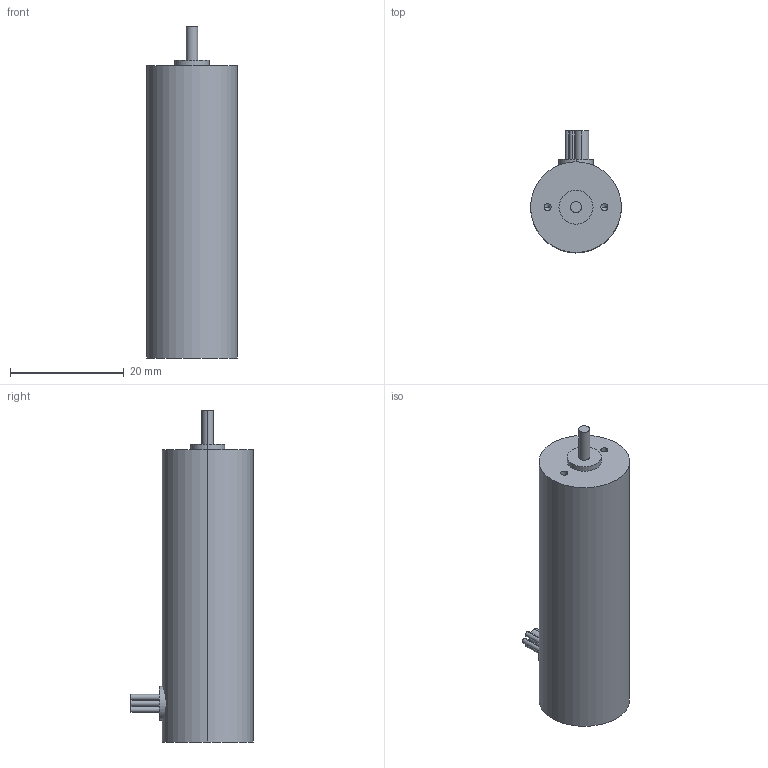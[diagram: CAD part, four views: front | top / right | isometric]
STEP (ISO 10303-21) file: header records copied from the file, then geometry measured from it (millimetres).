
FILE_DESCRIPTION (( 'STEP AP214' ), '1' );
FILE_NAME ('BD-1651.STEP', '2024-10-25T00:32:57', ( '' ), ( '' ), 'SwSTEP 2.0', 'SolidWorks 2024', '' );
FILE_SCHEMA (( 'AUTOMOTIVE_DESIGN' ));
Length unit declared in the file: millimetre
Products named in the file (1): BD-1651
Bounding box: 16 x 21.5 x 58.5 mm (x, y, z)
Volume: 10496.4 mm3; surface area: 3274.2 mm2
Topology: 2 solids, 2 shells, 34 faces, 68 edges, 42 vertices
Faces by surface type: cylinder 20, plane 10, cone 4
Entity records: 904 total; most frequent: DIRECTION 174, CARTESIAN_POINT 141, ORIENTED_EDGE 128, AXIS2_PLACEMENT_3D 75, EDGE_CURVE 64, EDGE_LOOP 42, VERTEX_POINT 42, CIRCLE 40
